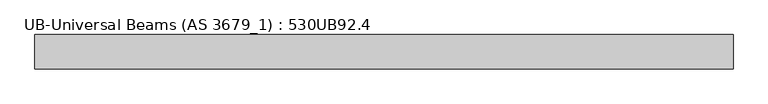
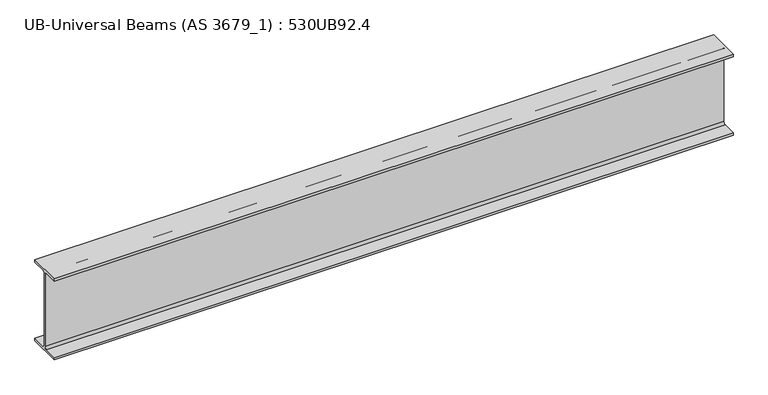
"""IFC4 building model written with IfcOpenShell, lengths in millimetres: beam geometry, UB-Universal Beams (AS 3679_1) : 530UB92.4."""

from ifc_helpers import new_model, si_unit, point, frame, frame_2d, origin, place, context, project, spatial, polyline, circle_curve, trimmed, segment, composite_curve, outline, extrude, source, transform, mapped, element, save


def ub_universal_beams_as_3679_1_530ub92_4_d895efd6(model_context):
    return source(origin(), model_context, "Body", "SweptSolid", [
        extrude(outline(composite_curve([segment(polyline([(104.5, -250.9), (104.5, -266.5), (-104.5, -266.5), (-104.5, -250.9), (-19.1, -250.9)]), True, "CONTINUOUS"), segment(trimmed(circle_curve(frame_2d((-19.1, -236.9)), 14.0), [point((-19.1, -250.9))], [point((-5.1, -236.9))], True, "CARTESIAN"), True, "CONTINUOUS"), segment(polyline([(-5.1, -236.9), (-5.1, 236.9)]), True, "CONTINUOUS"), segment(trimmed(circle_curve(frame_2d((-19.1, 236.9)), 14.0), [point((-5.1, 236.9))], [point((-19.1, 250.9))], True, "CARTESIAN"), True, "CONTINUOUS"), segment(polyline([(-19.1, 250.9), (-104.5, 250.9), (-104.5, 266.5), (104.5, 266.5), (104.5, 250.9), (19.1, 250.9)]), True, "CONTINUOUS"), segment(trimmed(circle_curve(frame_2d((19.1, 236.9)), 14.0), [point((19.1, 250.9))], [point((5.1, 236.9))], True, "CARTESIAN"), True, "CONTINUOUS"), segment(polyline([(5.1, 236.9), (5.1, -236.9)]), True, "CONTINUOUS"), segment(trimmed(circle_curve(frame_2d((19.1, -236.9)), 14.0), [point((5.1, -236.9))], [point((19.1, -250.9))], True, "CARTESIAN"), True, "CONTINUOUS"), segment(polyline([(19.1, -250.9), (104.5, -250.9)]), True, "CONTINUOUS")], self_intersect=False)), frame((-2151.2, 0.0, 0.0), z_axis=(1.0, 0.0, 0.0), x_axis=(0.0, 1.0, 0.0)), (0.0, 0.0, 1.0), 4227.8),
    ])


if __name__ == "__main__":
    model = new_model("IFC4")
    model_context = context("Model", 3, world=origin())
    ifc_project = project(units=[si_unit("LENGTHUNIT", "METRE", prefix="MILLI")], contexts=[model_context])
    site = spatial("IfcSite", under=ifc_project)
    building = spatial("IfcBuilding", under=site)
    placement = place(None, origin())
    ub_universal_beams_as_3679_1_530ub92_4_shape = ub_universal_beams_as_3679_1_530ub92_4_d895efd6(model_context)
    element("IfcBeam", 1, ObjectType="UB-Universal Beams (AS 3679_1) : 530UB92.4", at=placement, inside=building, context=model_context, shape_type="MappedRepresentation", body=[
        mapped(ub_universal_beams_as_3679_1_530ub92_4_shape, transform((0.0, 0.0, 0.0), x_axis=(1.0, 0.0, 0.0), y_axis=(0.0, 1.0, 0.0), z_axis=(0.0, 0.0, 1.0))),
    ])
    save(model, "model.ifc")
